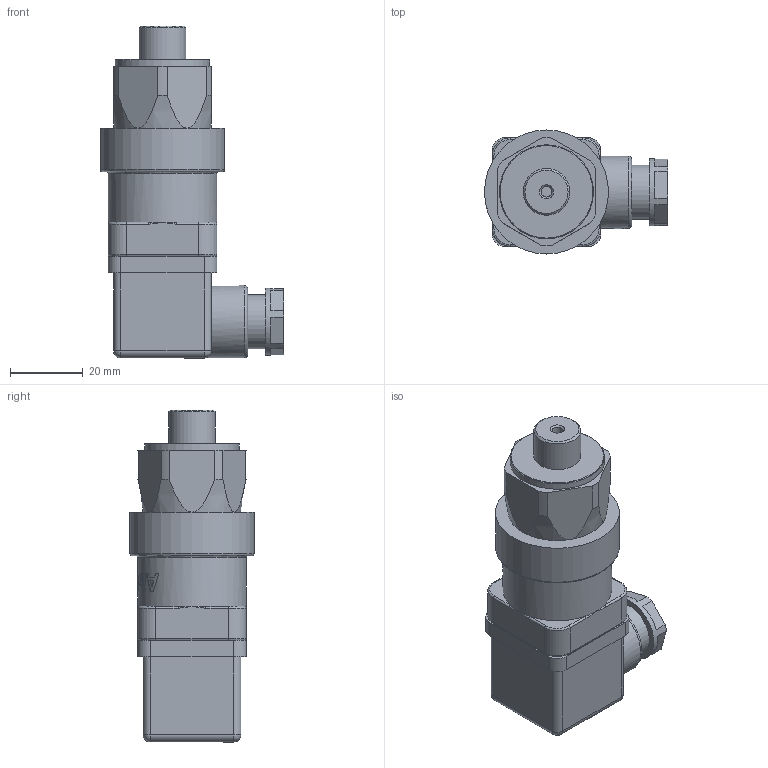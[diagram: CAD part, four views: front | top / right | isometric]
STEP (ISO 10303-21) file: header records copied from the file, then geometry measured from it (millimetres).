
FILE_DESCRIPTION((''),'2;1');
FILE_NAME('F:\AirCom-Produktdokumentation\Druckschalter\DS18\CAD\CAD AirCom\3D\B-DS18.stp','2008-10-15T16:42:33',('Frank Schroers'),(''),'Autodesk Inventor 2008','Autodesk Inventor 2008','');
FILE_SCHEMA(('AUTOMOTIVE_DESIGN { 1 0 10303 214 1 1 1 1 }'));
Length unit declared in the file: millimetre
Products named in the file (6): B-DS18-C3; B-DS18-C3-Kapp; B-DS17-Dichtgummi; B-DS17-Scheibe; B-DS17-Verschraubung
Assembly tree (5 placements, depth 2):
  B-DS18-C3
    B-DS18-C3-Kapp
    B-DS18-C3
    B-DS17-Dichtgummi
    B-DS17-Scheibe
    B-DS17-Verschraubung
Bounding box: 50.48 x 34.2 x 91.56 mm (x, y, z)
Volume: 60201 mm3; surface area: 19151.8 mm2
Topology: 5 solids, 5 shells, 281 faces, 684 edges, 424 vertices
Faces by surface type: plane 137, cylinder 85, bspline 31, torus 11, cone 9, sphere 8
Full cylindrical faces by diameter (mm): 1.6 x4, 2.9 x1, 6.8 x1, 9.95 x1, 10 x2, 12.9 x1, 13.5 x2, 14 x1, 15 x1, 18.5 x1, 20 x1, 21 x1, 25.95 x1, 30 x1, 34.2 x1
Entity records: 17053 total; most frequent: CARTESIAN_POINT 10526, ORIENTED_EDGE 1278, DIRECTION 1272, EDGE_CURVE 639, AXIS2_PLACEMENT_3D 468, VERTEX_POINT 422, EDGE_LOOP 349, VECTOR 336
